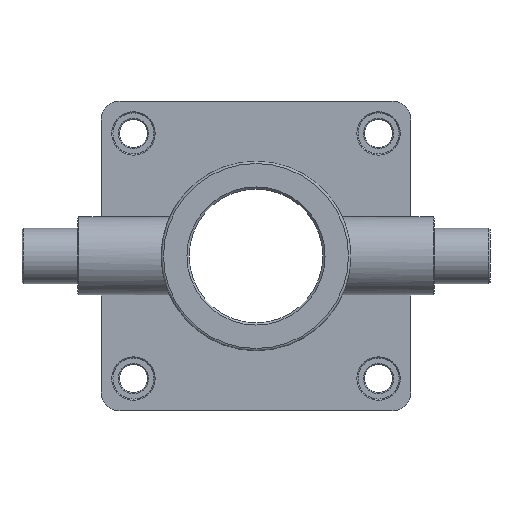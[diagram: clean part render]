
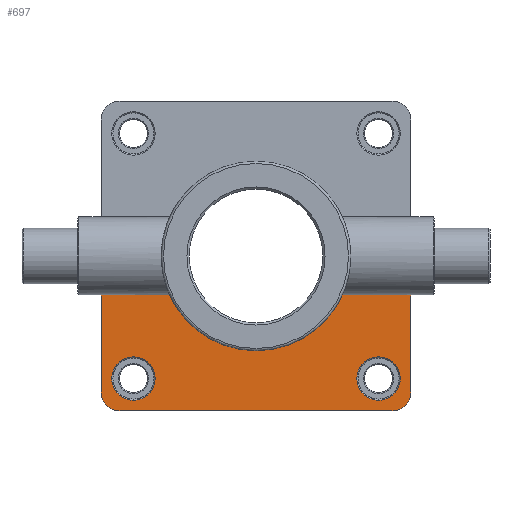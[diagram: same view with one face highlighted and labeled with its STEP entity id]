
A CAD part, left-side view. The second image highlights one B-rep face of the part: STEP entity #697.
In plain terms, the highlighted planar face has unit normal (-1, 0, 0).
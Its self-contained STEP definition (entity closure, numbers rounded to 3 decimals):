
#60=LINE('',#1127,#82);
#61=LINE('',#1130,#83);
#62=LINE('',#1134,#84);
#63=LINE('',#1138,#85);
#64=LINE('',#1140,#86);
#82=VECTOR('',#883,1000.);
#83=VECTOR('',#884,1000.);
#84=VECTOR('',#887,1000.);
#85=VECTOR('',#890,1000.);
#86=VECTOR('',#891,1000.);
#104=ORIENTED_EDGE('',*,*,#266,.F.);
#105=ORIENTED_EDGE('',*,*,#267,.F.);
#106=ORIENTED_EDGE('',*,*,#268,.F.);
#107=ORIENTED_EDGE('',*,*,#269,.F.);
#108=ORIENTED_EDGE('',*,*,#270,.F.);
#109=ORIENTED_EDGE('',*,*,#271,.F.);
#110=ORIENTED_EDGE('',*,*,#272,.F.);
#111=ORIENTED_EDGE('',*,*,#273,.F.);
#112=ORIENTED_EDGE('',*,*,#274,.F.);
#113=ORIENTED_EDGE('',*,*,#275,.F.);
#266=EDGE_CURVE('',#347,#347,#416,.T.);
#267=EDGE_CURVE('',#348,#348,#417,.T.);
#268=EDGE_CURVE('',#349,#350,#60,.F.);
#269=EDGE_CURVE('',#351,#349,#61,.T.);
#270=EDGE_CURVE('',#352,#351,#418,.T.);
#271=EDGE_CURVE('',#353,#352,#62,.T.);
#272=EDGE_CURVE('',#354,#353,#419,.T.);
#273=EDGE_CURVE('',#355,#354,#63,.T.);
#274=EDGE_CURVE('',#356,#355,#64,.F.);
#275=EDGE_CURVE('',#350,#356,#420,.F.);
#347=VERTEX_POINT('',#1124);
#348=VERTEX_POINT('',#1126);
#349=VERTEX_POINT('',#1128);
#350=VERTEX_POINT('',#1129);
#351=VERTEX_POINT('',#1131);
#352=VERTEX_POINT('',#1133);
#353=VERTEX_POINT('',#1135);
#354=VERTEX_POINT('',#1137);
#355=VERTEX_POINT('',#1139);
#356=VERTEX_POINT('',#1141);
#416=CIRCLE('',#765,9.75);
#417=CIRCLE('',#766,9.75);
#418=CIRCLE('',#767,8.5);
#419=CIRCLE('',#768,8.5);
#420=CIRCLE('',#769,42.5);
#473=EDGE_LOOP('',(#104));
#474=EDGE_LOOP('',(#105));
#475=EDGE_LOOP('',(#106,#107,#108,#109,#110,#111,#112,#113));
#577=FACE_BOUND('',#473,.T.);
#578=FACE_BOUND('',#474,.T.);
#579=FACE_BOUND('',#475,.T.);
#681=PLANE('',#764);
#697=ADVANCED_FACE('',(#577,#578,#579),#681,.F.);
#764=AXIS2_PLACEMENT_3D('',#1122,#877,#878);
#765=AXIS2_PLACEMENT_3D('',#1123,#879,#880);
#766=AXIS2_PLACEMENT_3D('',#1125,#881,#882);
#767=AXIS2_PLACEMENT_3D('',#1132,#885,#886);
#768=AXIS2_PLACEMENT_3D('',#1136,#888,#889);
#769=AXIS2_PLACEMENT_3D('',#1142,#892,#893);
#877=DIRECTION('',(1.,0.,0.));
#878=DIRECTION('',(0.,0.,-1.));
#879=DIRECTION('',(-1.,0.,0.));
#880=DIRECTION('',(0.,0.,1.));
#881=DIRECTION('',(-1.,0.,0.));
#882=DIRECTION('',(0.,0.,1.));
#883=DIRECTION('',(0.,1.,0.));
#884=DIRECTION('',(0.,0.,1.));
#885=DIRECTION('',(1.,0.,0.));
#886=DIRECTION('',(0.,0.,-1.));
#887=DIRECTION('',(0.,1.,0.));
#888=DIRECTION('',(1.,0.,0.));
#889=DIRECTION('',(0.,0.,-1.));
#890=DIRECTION('',(0.,0.,-1.));
#891=DIRECTION('',(0.,1.,0.));
#892=DIRECTION('',(1.,0.,0.));
#893=DIRECTION('',(0.,0.,-1.));
#1122=CARTESIAN_POINT('',(0.,61.,61.));
#1123=CARTESIAN_POINT('',(0.,55.,-55.));
#1124=CARTESIAN_POINT('',(0.,55.,-45.25));
#1125=CARTESIAN_POINT('',(0.,-55.,-55.));
#1126=CARTESIAN_POINT('',(0.,-55.,-45.25));
#1127=CARTESIAN_POINT('',(0.,105.,-17.5));
#1128=CARTESIAN_POINT('',(0.,69.5,-17.5));
#1129=CARTESIAN_POINT('',(0.,38.73,-17.5));
#1130=CARTESIAN_POINT('',(0.,69.5,-61.));
#1131=CARTESIAN_POINT('',(0.,69.5,-61.));
#1132=CARTESIAN_POINT('',(0.,61.,-61.));
#1133=CARTESIAN_POINT('',(0.,61.,-69.5));
#1134=CARTESIAN_POINT('',(0.,-61.,-69.5));
#1135=CARTESIAN_POINT('',(0.,-61.,-69.5));
#1136=CARTESIAN_POINT('',(0.,-61.,-61.));
#1137=CARTESIAN_POINT('',(0.,-69.5,-61.));
#1138=CARTESIAN_POINT('',(0.,-69.5,61.));
#1139=CARTESIAN_POINT('',(0.,-69.5,-17.5));
#1140=CARTESIAN_POINT('',(0.,105.,-17.5));
#1141=CARTESIAN_POINT('',(0.,-38.73,-17.5));
#1142=CARTESIAN_POINT('',(0.,0.,0.));
